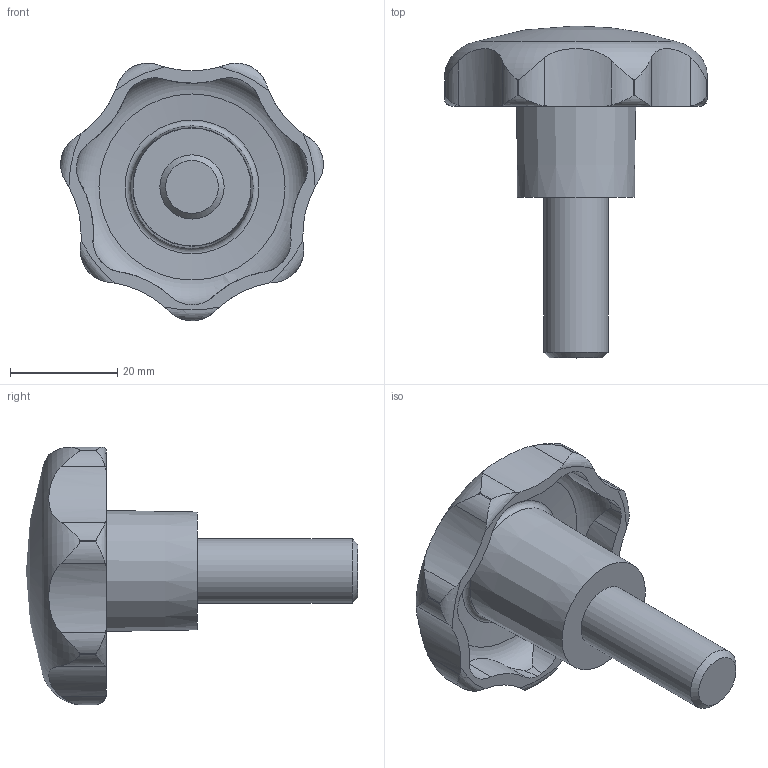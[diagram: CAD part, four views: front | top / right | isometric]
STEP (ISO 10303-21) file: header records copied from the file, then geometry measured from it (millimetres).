
FILE_DESCRIPTION( ( 'STEP AP203' ), '1' );
FILE_NAME( 'C:/Temp/Ganter_Step_05_03_2020/data/2_2/gn_6336_4/gn_6336_4_st/Star knob GN 6336.4-ST-50-M12-30.stp', '2020-03-05T12:07:41', ( 'License CC BY-ND 4.0' ), ( 'CADENAS' ), ' ', 'PARTsolutions', ' ' );
FILE_SCHEMA( ( 'CONFIG_CONTROL_DESIGN' ) );
Length unit declared in the file: millimetre
Products named in the file (1): _Star knob GN 6336.4-ST-50-M12-30
Bounding box: 49.04 x 62 x 48.12 mm (x, y, z)
Volume: 24532.9 mm3; surface area: 8573.1 mm2
Topology: 1 solids, 1 shells, 74 faces, 209 edges, 138 vertices
Faces by surface type: cylinder 50, torus 10, cone 10, plane 3, sphere 1
Full cylindrical faces by diameter (mm): 12 x1
Entity records: 3234 total; most frequent: CARTESIAN_POINT 1425, ORIENTED_EDGE 394, DIRECTION 334, EDGE_CURVE 197, AXIS2_PLACEMENT_3D 146, VERTEX_POINT 135, B_SPLINE_CURVE_WITH_KNOTS 84, EDGE_LOOP 83
